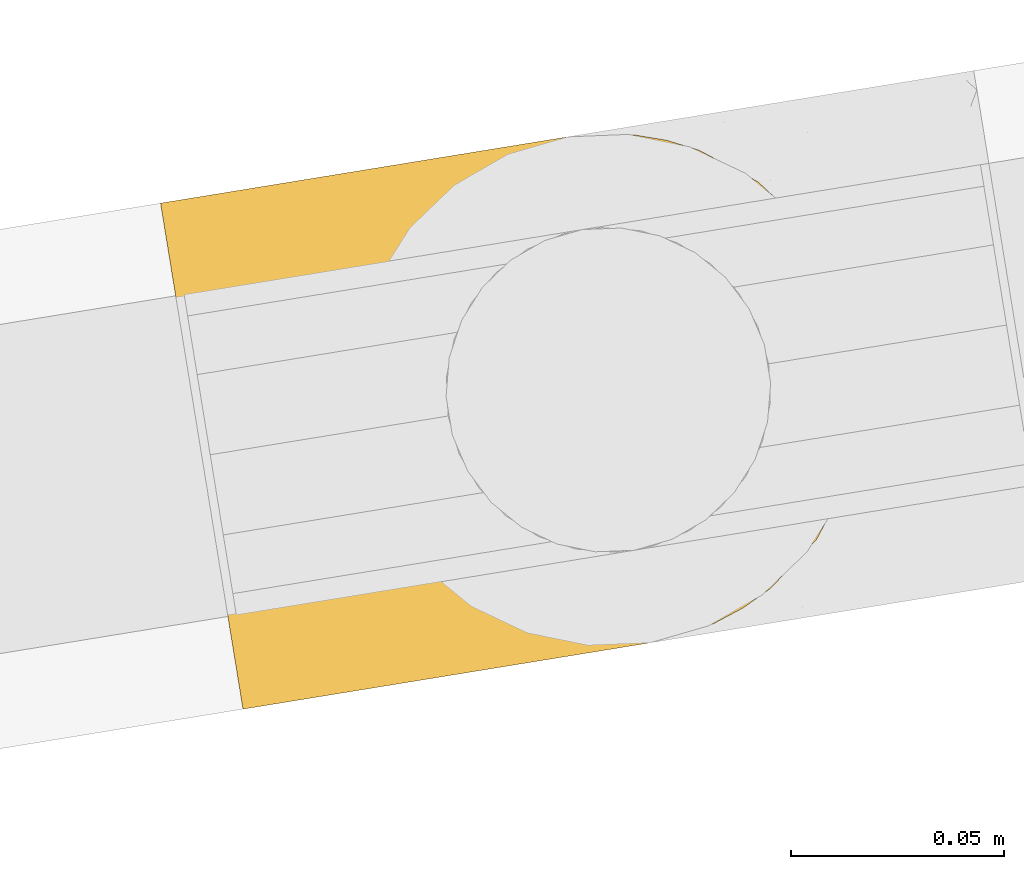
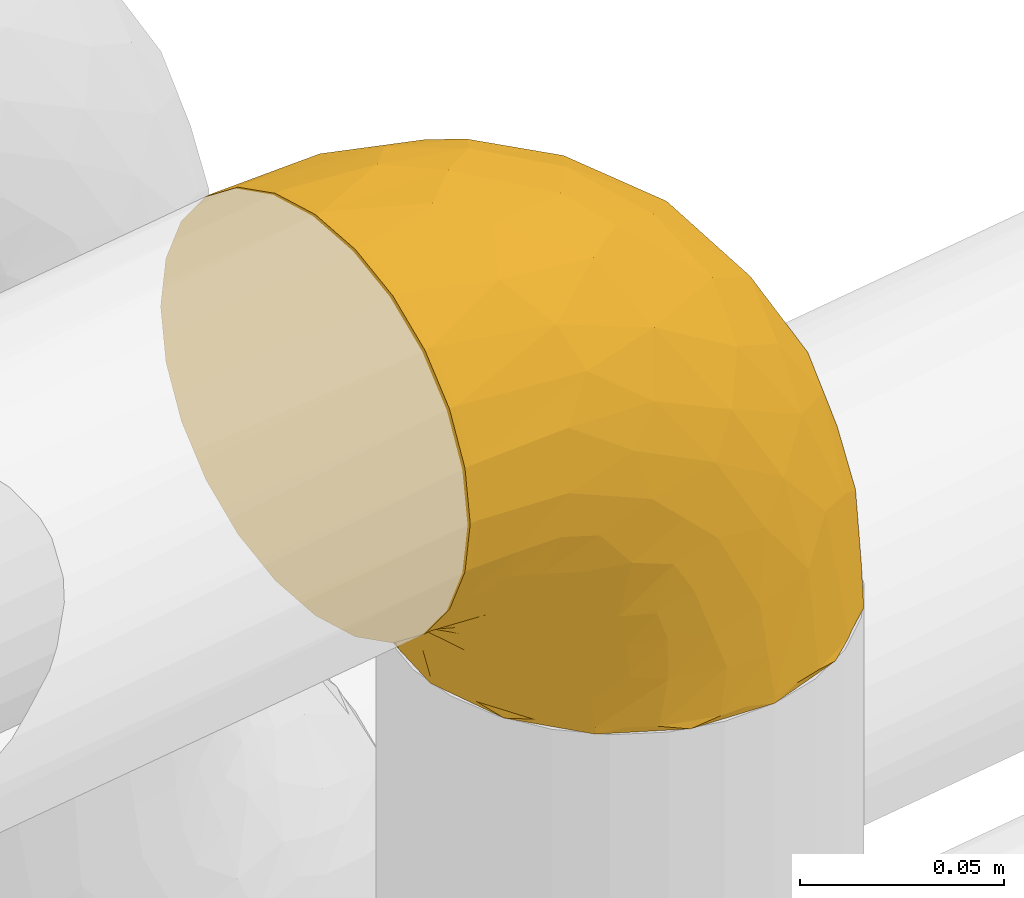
# One storey, part 13 of 56: 1 covering.
"""IFC2X3 building model written with IfcOpenShell, lengths in millimetres."""

from ifc_helpers import new_model, entity, si_unit, converted_unit, derived_unit, direction, frame, origin, origin_with_axes, place, context, subcontext, project, spatial, faceted_brep, material, type_object, element, save


model = new_model("IFC2X3")

# Units and contexts
model_context = context("Model", 3, precision=0.01, world=origin(), true_north=direction((6.12323399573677e-17, 1.0)))
plan_context = context("Plan", 3, precision=1e-05, world=origin_with_axes())
body_context = subcontext(model_context, "Body", "Model", "MODEL_VIEW")
ifc_project = project(units=[converted_unit("PLANEANGLEUNIT", "DEGREE", entity("IfcPositiveLengthMeasure", 0.0174532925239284), si_unit("PLANEANGLEUNIT", "RADIAN"), dimensions=[0, 0, 0, 0, 0, 0, 0]), si_unit("AREAUNIT", "SQUARE_METRE"), si_unit("LENGTHUNIT", "METRE", prefix="MILLI"), si_unit("MASSUNIT", "GRAM", prefix="KILO"), si_unit("POWERUNIT", "WATT"), si_unit("PRESSUREUNIT", "PASCAL", prefix="KILO"), si_unit("FORCEUNIT", "NEWTON", prefix="KILO"), si_unit("ELECTRICVOLTAGEUNIT", "VOLT"), si_unit("ELECTRICCURRENTUNIT", "AMPERE"), si_unit("THERMODYNAMICTEMPERATUREUNIT", "DEGREE_CELSIUS"), si_unit("TIMEUNIT", "SECOND"), si_unit("VOLUMEUNIT", "CUBIC_METRE"), derived_unit("LINEARVELOCITYUNIT", [(si_unit("LENGTHUNIT", "METRE"), 1), (si_unit("TIMEUNIT", "SECOND"), -1)]), derived_unit("VOLUMETRICFLOWRATEUNIT", [(si_unit("VOLUMEUNIT", "CUBIC_METRE"), 1), (si_unit("TIMEUNIT", "SECOND"), -1)]), derived_unit("THERMALTRANSMITTANCEUNIT", [(si_unit("POWERUNIT", "WATT"), 1), (si_unit("THERMODYNAMICTEMPERATUREUNIT", "KELVIN"), -1), (si_unit("AREAUNIT", "SQUARE_METRE"), -1)]), derived_unit("SOUNDPRESSUREUNIT", [(si_unit("PRESSUREUNIT", "PASCAL"), 1)])], contexts=[model_context, plan_context])

# Site, building, storey
site_placement = place(None, frame((-3.09682673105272e-06, 1.93776733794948e-05, 0.0), z_axis=(0.0, 0.0, 1.0), x_axis=(-0.160806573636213, 0.986985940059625, 0.0)))
site = spatial("IfcSite", under=ifc_project, at=site_placement, Name="Default", CompositionType="ELEMENT")
building_placement = place(site_placement, frame((0.0, 0.0, 0.0), z_axis=(0.0, 0.0, 1.0), x_axis=(1.0, -2.77555756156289e-17, 0.0)))
building = spatial("IfcBuilding", under=site, at=building_placement, Name="Bygning (endres i Project Information)", CompositionType="ELEMENT")
storey_placement = place(building_placement, frame((0.0, 0.0, 51360.0000000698), z_axis=(0.0, 0.0, 1.0), x_axis=(1.0, -2.77555756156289e-17, 0.0)))
storey = spatial("IfcBuildingStorey", under=building, at=storey_placement, Name="H01-Nivå D+0,36", CompositionType="ELEMENT", Elevation=51360.0000000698)

# Covering
ifc_material = material(Name="3700.001 Retur")
covering_type = type_object("IfcCoveringType", Name="Pipe Insulation:GLAVA avløpsisol. slange økende 19mm (15,5-25,0)", PredefinedType="INSULATION")
covering_placement = place(storey_placement, frame((1011626.7223707, -395732.461006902, 3503.50073692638), z_axis=(0.0, 0.0, 1.0), x_axis=(1.0, -2.77555756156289e-17, 0.0)))
element("IfcCovering", 1, at=covering_placement, inside=storey, type_object=covering_type, material=ifc_material, Name="Pipe Insulation:GLAVA avløpsisol. slange økende 19mm (15,5-25,0)", ObjectType="Pipe Insulation:GLAVA avløpsisol. slange økende 19mm (15,5-25,0)", PredefinedType="INSULATION", context=body_context, shape_type="Brep", body=[
    faceted_brep([(110.61563630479, 28.9243210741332, 0.0), (104.107034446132, 19.1835100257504, 0.0), (94.3662233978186, 12.6749081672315, 0.0), (84.6254123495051, 6.16630630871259, 0.0), (73.1353422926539, 3.88078927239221, 0.0), (61.6452722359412, 1.59527223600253, 0.0), (50.1552021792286, 3.88078927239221, 0.0), (38.6651321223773, 6.16630630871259, 0.0), (28.9243210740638, 12.6749081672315, 0.0), (19.1835100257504, 19.1835100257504, 0.0), (12.6749081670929, 28.9243210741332, 0.0), (6.16630630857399, 38.6651321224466, 0.0), (3.88078927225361, 50.1552021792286, 0.0), (1.59527223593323, 61.6452722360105, 0.0), (3.88078927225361, 73.1353422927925, 0.0), (6.16630630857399, 84.6254123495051, 0.0), (12.6749081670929, 94.3662233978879, 0.0), (19.1835100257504, 104.107034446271, 0.0), (28.9243210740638, 110.61563630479, 0.0), (38.6651321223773, 117.124238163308, 0.0), (50.1552021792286, 119.409755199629, 0.0), (61.6452722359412, 121.695272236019, 0.0), (73.1353422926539, 119.409755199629, 0.0), (84.6254123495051, 117.124238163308, 0.0), (94.3662233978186, 110.61563630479, 0.0), (104.107034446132, 104.107034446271, 0.0), (110.61563630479, 94.3662233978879, 0.0), (117.124238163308, 84.6254123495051, 0.0), (119.409755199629, 73.1353422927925, 0.0), (121.695272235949, 61.6452722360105, 0.0), (119.409755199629, 50.1552021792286, 0.0), (117.124238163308, 38.6651321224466, 0.0), (38.861730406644, 158.145272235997, 151.504335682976), (46.1031885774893, 158.145272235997, 154.503845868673), (53.2859395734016, 158.145272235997, 155.449472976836), (61.6452722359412, 158.145272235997, 156.550000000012), (69.4163140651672, 158.145272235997, 155.526922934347), (77.1873558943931, 158.145272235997, 154.503845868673), (84.4288140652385, 158.145272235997, 151.504335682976), (91.6702722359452, 158.145272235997, 148.50482549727), (97.8886533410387, 158.145272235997, 143.733293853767), (104.107034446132, 158.145272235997, 138.961762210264), (108.878566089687, 158.145272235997, 132.743381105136), (113.650097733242, 158.145272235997, 126.525000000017), (116.649607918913, 158.145272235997, 119.283541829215), (119.649118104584, 158.145272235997, 112.042083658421), (120.594745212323, 158.145272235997, 104.859332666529), (121.695272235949, 158.145272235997, 96.5000000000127), (120.672195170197, 158.145272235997, 88.7289581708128), (119.649118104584, 158.145272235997, 80.9579163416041), (116.649607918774, 158.145272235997, 73.7164581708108), (113.650097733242, 158.145272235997, 66.4750000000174), (108.878566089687, 158.145272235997, 60.2566188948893), (104.107034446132, 158.145272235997, 54.0382377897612), (97.8886533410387, 158.145272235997, 49.2667061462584), (91.6702722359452, 158.145272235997, 44.4951745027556), (84.4288140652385, 158.145272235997, 41.4956643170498), (77.1873558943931, 158.145272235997, 38.4961541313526), (70.0046048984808, 158.145272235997, 37.5505270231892), (61.6452722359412, 158.145272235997, 36.4500000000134), (53.8742304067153, 158.145272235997, 37.4730770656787), (46.1031885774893, 158.145272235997, 38.4961541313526), (38.861730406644, 158.145272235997, 41.4956643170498), (31.6202722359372, 158.145272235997, 44.4951745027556), (25.4018911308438, 158.145272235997, 49.2667061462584), (19.1835100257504, 158.145272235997, 54.0382377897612), (14.4119783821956, 158.145272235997, 60.2566188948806), (9.64044673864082, 158.145272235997, 66.4750000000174), (6.64093655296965, 158.145272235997, 73.7164581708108), (3.64142636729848, 158.145272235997, 80.9579163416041), (2.69579925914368, 158.145272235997, 88.1406673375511), (1.59527223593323, 158.145272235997, 96.5000000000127), (2.61834930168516, 158.145272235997, 104.271041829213), (3.64142636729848, 158.145272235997, 112.042083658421), (6.64093655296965, 158.145272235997, 119.283541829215), (9.64044673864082, 158.145272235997, 126.525000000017), (14.4119783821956, 158.145272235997, 132.743381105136), (19.1835100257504, 158.145272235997, 138.961762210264), (25.4018911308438, 158.145272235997, 143.733293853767), (31.6202722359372, 158.145272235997, 148.50482549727), (77.1873558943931, 156.145272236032, 154.503845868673), (61.6452722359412, 156.145272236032, 156.550000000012), (70.004604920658, 156.145272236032, 155.449472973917), (91.6702722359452, 156.145272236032, 148.50482549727), (84.4288140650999, 156.145272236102, 151.504335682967), (97.8886533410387, 156.145272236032, 143.733293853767), (104.107034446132, 156.145272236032, 138.961762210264), (113.650097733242, 156.145272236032, 126.525000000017), (108.878566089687, 156.145272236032, 132.743381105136), (119.649118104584, 156.145272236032, 112.042083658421), (116.649607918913, 156.145272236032, 119.283541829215), (120.672195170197, 156.145272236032, 104.271041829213), (121.695272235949, 156.145272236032, 96.5000000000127), (120.594745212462, 156.145272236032, 88.1406673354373), (120.296466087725, 156.145272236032, 85.8750124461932), (119.649118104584, 156.145272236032, 80.9579163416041), (113.650097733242, 156.145272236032, 66.4750000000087), (116.649607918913, 156.145272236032, 73.7164581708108), (108.878566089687, 156.145272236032, 60.2566188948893), (104.107034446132, 156.145272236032, 54.0382377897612), (91.6702722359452, 156.145272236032, 44.4951745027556), (97.8886533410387, 156.145272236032, 49.2667061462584), (77.1873558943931, 156.145272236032, 38.4961541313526), (84.4288140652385, 156.145272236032, 41.4956643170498), (69.4163140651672, 156.145272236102, 37.4730770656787), (61.6452722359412, 156.145272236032, 36.4500000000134), (46.1031885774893, 156.145272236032, 38.4961541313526), (53.2859395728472, 156.145272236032, 37.5505270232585), (31.6202722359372, 156.145272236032, 44.4951745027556), (38.861730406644, 156.145272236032, 41.4956643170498), (25.4018911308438, 156.145272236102, 49.2667061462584), (19.1835100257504, 156.145272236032, 54.0382377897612), (9.64044673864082, 156.145272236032, 66.4750000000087), (14.4119783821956, 156.145272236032, 60.2566188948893), (3.64142636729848, 156.145272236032, 80.9579163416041), (6.64093655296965, 156.145272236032, 73.7164581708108), (2.99407838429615, 156.145272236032, 85.8750124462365), (2.61834930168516, 156.145272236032, 88.7289581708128), (1.59527223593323, 156.145272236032, 96.5000000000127), (3.64142636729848, 156.145272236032, 112.042083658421), (2.69579925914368, 156.145272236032, 104.8593326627), (9.64044673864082, 156.145272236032, 126.525000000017), (6.64093655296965, 156.145272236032, 119.283541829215), (14.4119783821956, 156.145272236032, 132.743381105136), (19.1835100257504, 156.145272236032, 138.961762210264), (31.6202722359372, 156.145272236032, 148.50482549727), (25.4018911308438, 156.145272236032, 143.733293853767), (46.1031885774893, 156.145272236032, 154.503845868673), (38.861730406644, 156.145272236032, 151.504335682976), (53.8742304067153, 156.145272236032, 155.526922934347), (61.6452722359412, 6.86143578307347, 42.0004834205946), (72.4161841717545, 4.85633208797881, 28.4061816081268), (74.9782039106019, 17.4970961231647, 66.8176923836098), (61.6452722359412, 116.144788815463, 151.283836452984), (72.4161841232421, 129.739090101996, 153.288940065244), (83.1765166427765, 92.4811097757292, 138.434381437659), (94.2224176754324, 96.5885905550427, 134.144438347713), (82.7275564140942, 119.160590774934, 148.119588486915), (96.4252457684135, 128.340793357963, 142.732214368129), (117.036665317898, 96.0393535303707, 103.184564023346), (113.961629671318, 114.864782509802, 118.904536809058), (107.511164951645, 88.2689784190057, 116.677739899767), (92.2961559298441, 48.5209071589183, 100.86067048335), (80.2573725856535, 64.2876891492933, 122.592591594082), (77.1652546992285, 34.90343386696, 94.5183470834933), (120.687826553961, 104.9404992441, 94.1873799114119), (119.935582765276, 79.1197072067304, 79.0255659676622), (121.695272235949, 100.599565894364, 78.4521059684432), (106.818747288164, 118.733085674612, 130.738697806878), (98.0183861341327, 72.172721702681, 116.858258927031), (61.6452722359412, 46.8619192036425, 111.283353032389), (61.6452722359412, 22.3010460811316, 79.2750000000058), (61.6452722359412, 78.8702722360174, 135.8442261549), (119.18845308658, 125.036729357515, 109.248734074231), (117.036665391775, 54.9607093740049, 62.1059203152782), (115.12043202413, 70.0051707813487, 88.1401035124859), (121.695272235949, 113.771366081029, 85.1634733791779), (121.695272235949, 126.943166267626, 91.8748407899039), (72.2819566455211, 100.826681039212, 145.293239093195), (106.818747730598, 27.4065752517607, 39.4121875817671), (107.511165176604, 41.4675344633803, 69.8762968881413), (94.2224191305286, 24.0008362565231, 61.5566846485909), (82.7275563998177, 10.0256837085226, 38.9846813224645), (77.1873558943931, 3.64142636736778, 2.0), (84.4288140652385, 6.64093655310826, 2.0), (91.6702722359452, 9.64044673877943, 2.0), (96.425246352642, 15.4130584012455, 29.8044794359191), (97.8886533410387, 14.4119783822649, 2.0), (104.107034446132, 19.1835100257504, 2.0), (61.6452722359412, 1.59527223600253, 2.0), (69.4163140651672, 2.61834930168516, 2.0), (113.961629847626, 39.2407362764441, 43.2804911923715), (113.650097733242, 31.6202722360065, 2.0), (116.649607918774, 38.8617304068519, 2.0), (119.649118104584, 46.103188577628, 2.0), (108.878566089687, 25.4018911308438, 2.0), (121.695272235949, 79.6931662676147, 57.5457063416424), (121.695272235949, 90.1463660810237, 67.9989061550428), (120.68782656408, 63.9578927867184, 53.2047737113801), (119.188453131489, 48.896538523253, 33.1085435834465), (121.695272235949, 66.270431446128, 31.2021059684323), (121.695272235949, 61.6452722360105, 2.0), (121.695272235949, 63.6720570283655, 14.7966155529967), (121.695272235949, 72.9817988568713, 44.3739061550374), (84.8749327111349, 25.8677928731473, 76.0964222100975), (120.672195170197, 53.8742304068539, 2.0), (105.75755060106, 60.5130135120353, 97.6322626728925), (121.695272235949, 143.348657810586, 94.4732153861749), (92.8369498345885, 120.504197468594, 26.3881555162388), (77.905527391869, 124.070288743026, 19.8213005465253), (83.6303098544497, 130.078513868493, 30.495068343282), (119.642205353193, 142.117064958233, 79.6755573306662), (120.072900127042, 128.628832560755, 77.7956794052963), (87.5451559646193, 147.533586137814, 41.3921957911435), (104.200031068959, 139.082463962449, 51.2599985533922), (91.2304823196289, 136.422330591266, 39.3569033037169), (116.122692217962, 130.78536407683, 66.425565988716), (116.752099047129, 118.478414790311, 61.7611370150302), (111.678355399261, 129.916934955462, 57.3979050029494), (120.411899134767, 116.031663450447, 73.6921423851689), (119.181509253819, 104.870233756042, 59.8559552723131), (103.601291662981, 105.417545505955, 11.1054589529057), (104.848123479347, 106.909255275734, 21.0489355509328), (110.652106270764, 98.6689268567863, 18.4951953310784), (120.672195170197, 69.4163140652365, 2.0), (120.296466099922, 72.2702596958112, 2.0), (119.649118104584, 77.1873558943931, 2.0), (116.127021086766, 141.95247640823, 69.7763679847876), (110.514916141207, 143.451789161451, 60.2362581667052), (76.4459559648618, 141.678469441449, 35.2954551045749), (94.7858946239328, 126.59430632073, 35.1684660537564), (104.678316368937, 115.549145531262, 35.4744073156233), (88.469094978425, 117.005756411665, 13.4287309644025), (91.6702722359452, 113.650097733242, 2.0), (84.4288140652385, 116.649607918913, 2.0), (77.1873558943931, 119.649118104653, 2.0), (120.478795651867, 92.7490897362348, 54.7534216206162), (116.647334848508, 91.4693001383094, 29.8078963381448), (120.301450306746, 86.1872714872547, 44.0771599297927), (120.044050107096, 79.6356612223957, 27.0781928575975), (112.175020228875, 100.652594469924, 29.7714545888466), (120.320962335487, 75.6631370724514, 16.2064688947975), (113.650097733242, 91.6702722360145, 2.0), (115.239613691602, 90.2295581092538, 16.1340663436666), (104.107034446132, 104.107034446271, 2.0), (109.988197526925, 120.648409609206, 48.9737177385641), (101.585160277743, 129.564302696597, 43.9447950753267), (61.6452722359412, 124.002984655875, 10.612500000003), (78.2976487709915, 120.547927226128, 11.3511933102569), (113.641213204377, 104.532423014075, 40.6154890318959), (117.104758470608, 95.2125765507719, 39.3574666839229), (61.6452722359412, 121.695272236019, 2.0), (61.6452722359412, 132.61548465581, 25.5297875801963), (61.6452722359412, 126.310697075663, 19.2250000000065), (72.485868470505, 134.199400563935, 29.8232292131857), (61.6452722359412, 138.920272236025, 31.8345751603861), (108.878566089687, 97.8886533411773, 2.0), (97.8886533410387, 108.878566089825, 2.0), (116.649607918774, 84.4288140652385, 2.0), (69.4163140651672, 120.672195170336, 2.0), (19.0905134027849, 139.082463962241, 51.2599985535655), (35.7453885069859, 147.533586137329, 41.3921957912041), (46.844588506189, 141.678469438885, 35.2954551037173), (3.64833911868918, 142.117064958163, 79.6755573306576), (1.59527223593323, 143.348657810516, 94.4732153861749), (1.59527223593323, 79.6931662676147, 57.5457063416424), (2.81174643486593, 92.7490814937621, 54.7534299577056), (2.98909452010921, 86.1872721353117, 44.0771578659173), (45.3850170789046, 124.070288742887, 19.8213005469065), (30.4535946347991, 120.504197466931, 26.3881555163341), (39.6602346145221, 130.078513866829, 30.4950683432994), (12.5170794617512, 143.724416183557, 60.6680970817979), (6.8221522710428, 141.257647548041, 70.3948101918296), (7.1678522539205, 130.785364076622, 66.4255659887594), (2.87864533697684, 116.031663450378, 73.6921423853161), (3.03824146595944, 128.101851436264, 78.4327232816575), (1.59527223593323, 126.943166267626, 91.8748407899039), (21.7053841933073, 129.564302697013, 43.9447950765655), (18.612234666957, 115.54915132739, 35.4744037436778), (13.3023469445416, 120.648409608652, 48.9737177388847), (28.5046498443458, 126.594306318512, 35.1684660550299), (32.0600621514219, 136.422330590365, 39.3569033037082), (50.2206672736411, 130.05259985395, 26.1401484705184), (1.59527223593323, 90.1463660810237, 67.9989061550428), (4.10903440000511, 104.870222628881, 59.8559490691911), (44.9928957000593, 120.547927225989, 11.3511933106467), (1.59527223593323, 63.6720570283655, 14.7966155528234), (3.64142636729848, 77.1873558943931, 2.0), (2.99407837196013, 72.2702596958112, 2.0), (2.61834930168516, 69.4163140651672, 2.0), (1.59527223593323, 61.6452722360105, 2.0), (9.64934103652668, 104.532434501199, 40.6154761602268), (12.638438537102, 98.6689283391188, 18.495198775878), (19.1835100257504, 104.107034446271, 2.0), (8.05093562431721, 90.2295673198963, 16.134063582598), (14.4119783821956, 97.8886533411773, 2.0), (9.64044673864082, 91.6702722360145, 2.0), (3.24649619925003, 79.6356673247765, 27.0781868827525), (6.64321344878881, 91.4693094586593, 29.8078959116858), (18.4424237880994, 106.909254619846, 21.0489258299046), (11.1155292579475, 100.65260209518, 29.7714523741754), (6.53844704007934, 118.478411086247, 61.7611302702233), (1.59527223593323, 66.270431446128, 31.2021059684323), (2.9695822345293, 75.6631375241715, 16.206468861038), (1.59527223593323, 72.9817988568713, 44.3739061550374), (19.6892477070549, 105.417540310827, 11.1054582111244), (34.8214494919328, 117.005756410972, 13.4287309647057), (46.1031885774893, 119.649118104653, 2.0), (38.861730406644, 116.649607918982, 2.0), (31.6202722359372, 113.650097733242, 2.0), (11.6121889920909, 129.916934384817, 57.3979048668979), (1.59527223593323, 100.599565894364, 78.4521059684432), (53.8742304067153, 120.672195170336, 2.0), (6.18578775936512, 95.2125864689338, 39.3574747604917), (6.64093655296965, 84.4288140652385, 2.0), (25.4018911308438, 108.878566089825, 2.0), (1.59527223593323, 113.771366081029, 85.1634733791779), (2.60271791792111, 104.940499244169, 94.1873799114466), (29.0681253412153, 24.0008362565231, 61.556684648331), (25.2721577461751, 41.2870177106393, 85.9725557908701), (15.7793792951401, 41.4675344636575, 69.8762968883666), (40.5629880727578, 10.0256837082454, 38.9846813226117), (31.6202722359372, 9.64044673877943, 2.0), (38.861730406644, 6.64093655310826, 2.0), (46.1031885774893, 3.64142636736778, 2.0), (30.9943890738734, 57.284607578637, 109.624370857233), (43.0331721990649, 35.5526854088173, 93.8575895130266), (46.1252902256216, 63.6269305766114, 123.241842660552), (2.6027179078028, 63.9578927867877, 53.2047737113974), (3.35496170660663, 79.1197072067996, 79.0255659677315), (4.10209138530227, 125.036729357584, 109.248734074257), (50.874360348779, 129.739090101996, 153.288940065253), (40.5629880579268, 119.160590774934, 148.119588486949), (26.8652987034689, 128.340793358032, 142.732214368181), (16.4717971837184, 118.733085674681, 130.738697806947), (29.0681267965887, 96.5885905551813, 134.144438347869), (48.3123394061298, 91.3275819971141, 140.648176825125), (9.32891480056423, 114.86478250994, 118.904536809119), (15.7793795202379, 88.2689784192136, 116.677739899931), (9.64044673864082, 31.6202722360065, 2.0), (16.4717967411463, 27.40657525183, 39.4121875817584), (9.32891462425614, 39.2407362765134, 43.2804911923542), (4.10209134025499, 48.896538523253, 33.1085435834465), (6.25387908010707, 54.9607093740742, 62.1059203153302), (2.61834930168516, 53.8742304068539, 2.0), (3.64142636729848, 46.103188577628, 2.0), (6.2538791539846, 96.0393535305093, 103.184564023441), (8.17011244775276, 70.0051707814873, 88.1401035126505), (50.8743603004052, 4.85633208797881, 28.4061816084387), (19.1835100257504, 19.1835100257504, 2.0), (26.8652981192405, 15.4130584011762, 29.8044794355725), (51.0085891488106, 12.8520324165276, 57.3185899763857), (25.4018911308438, 14.4119783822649, 2.0), (14.4119783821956, 25.4018911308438, 2.0), (40.1140269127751, 19.7108916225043, 65.664163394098), (38.415613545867, 82.0488553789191, 132.277483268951), (17.5329938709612, 60.5130135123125, 97.6322626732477), (6.64093655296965, 38.8617304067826, 2.0), (53.8742304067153, 2.61834930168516, 2.0)], [[[0, 1, 2, 3, 4, 5, 6, 7, 8, 9, 10, 11, 12, 13, 14, 15, 16, 17, 18, 19, 20, 21, 22, 23, 24, 25, 26, 27, 28, 29, 30, 31]], [[32, 33, 34, 35, 36, 37, 38, 39, 40, 41, 42, 43, 44, 45, 46, 47, 48, 49, 50, 51, 52, 53, 54, 55, 56, 57, 58, 59, 60, 61, 62, 63, 64, 65, 66, 67, 68, 69, 70, 71, 72, 73, 74, 75, 76, 77, 78, 79]], [[80, 37, 36, 35, 81, 82]], [[83, 39, 38, 37, 80, 84]], [[40, 39, 83, 85, 86, 41]], [[87, 43, 42, 41, 86, 88]], [[89, 45, 44, 43, 87, 90]], [[46, 45, 89, 91, 92, 47]], [[49, 48, 47, 92, 93, 94, 95]], [[96, 51, 50, 49, 95, 97]], [[52, 51, 96, 98, 99, 53]], [[100, 55, 54, 53, 99, 101]], [[102, 57, 56, 55, 100, 103]], [[58, 57, 102, 104, 105, 59]], [[106, 61, 60, 59, 105, 107]], [[108, 63, 62, 61, 106, 109]], [[64, 63, 108, 110, 111, 65]], [[112, 67, 66, 65, 111, 113]], [[114, 69, 68, 67, 112, 115]], [[70, 69, 114, 116, 117, 118, 71]], [[119, 73, 72, 71, 118, 120]], [[121, 75, 74, 73, 119, 122]], [[76, 75, 121, 123, 124, 77]], [[125, 79, 78, 77, 124, 126]], [[127, 33, 32, 79, 125, 128]], [[34, 33, 127, 129, 81, 35]], [[130, 131, 132]], [[81, 133, 134]], [[135, 136, 137]], [[137, 136, 138]], [[137, 83, 84, 80]], [[139, 140, 141]], [[142, 143, 144]], [[145, 146, 147]], [[148, 86, 138]], [[138, 86, 85, 83]], [[143, 142, 149]], [[150, 151, 144]], [[143, 152, 150]], [[153, 92, 91, 89]], [[154, 146, 155]], [[87, 148, 140]], [[145, 147, 156, 157]], [[80, 134, 137]], [[158, 135, 137]], [[155, 146, 139]], [[148, 87, 88, 86]], [[159, 160, 161]], [[162, 163, 164, 165]], [[166, 165, 167, 168]], [[166, 162, 165]], [[131, 169, 170, 163]], [[159, 171, 160]], [[171, 172, 173, 174]], [[153, 139, 145]], [[159, 168, 175, 172]], [[144, 143, 150]], [[146, 176, 177, 147]], [[178, 179, 180]], [[179, 181, 182, 180]], [[178, 180, 183, 176]], [[178, 146, 154]], [[136, 149, 141]], [[131, 163, 162]], [[166, 159, 161]], [[184, 144, 132]], [[153, 140, 139]], [[179, 171, 174]], [[132, 144, 151]], [[134, 158, 137]], [[161, 160, 142]], [[146, 178, 176]], [[179, 178, 154]], [[179, 154, 171]], [[179, 174, 185, 181]], [[154, 155, 160]], [[172, 171, 159]], [[154, 160, 171]], [[160, 186, 142]], [[153, 157, 187, 92]], [[146, 145, 139]], [[153, 145, 157]], [[140, 89, 90, 87]], [[140, 153, 89]], [[141, 140, 148]], [[136, 141, 148]], [[141, 186, 155]], [[142, 144, 184]], [[186, 141, 149]], [[137, 138, 83]], [[148, 138, 136]], [[159, 166, 168]], [[162, 166, 161]], [[141, 155, 139]], [[160, 155, 186]], [[130, 132, 151]], [[184, 162, 161]], [[162, 184, 132]], [[142, 184, 161]], [[134, 80, 82, 81]], [[158, 134, 133]], [[133, 152, 158]], [[143, 158, 152]], [[158, 143, 135]], [[143, 136, 135]], [[132, 131, 162]], [[169, 131, 130]], [[143, 149, 136]], [[186, 149, 142]], [[188, 189, 190]], [[187, 157, 191]], [[157, 156, 192]], [[95, 187, 191]], [[193, 194, 195]], [[196, 197, 198]], [[199, 200, 197]], [[201, 202, 203]], [[182, 181, 204, 205, 206]], [[207, 208, 96]], [[209, 105, 104, 102]], [[188, 190, 210]], [[188, 210, 211]], [[187, 95, 94, 93, 92]], [[193, 102, 103, 100]], [[212, 213, 214, 215]], [[200, 177, 216]], [[202, 201, 212]], [[217, 218, 219]], [[183, 219, 218]], [[217, 203, 220]], [[221, 222, 223]], [[191, 96, 97, 95]], [[195, 210, 190]], [[224, 201, 203]], [[225, 211, 226]], [[227, 189, 228]], [[202, 188, 211]], [[195, 190, 209]], [[221, 182, 206]], [[223, 203, 217]], [[189, 188, 212]], [[200, 229, 225]], [[194, 100, 101, 99]], [[216, 218, 230]], [[208, 99, 98, 96]], [[199, 197, 196]], [[200, 147, 177]], [[228, 231, 227]], [[202, 212, 188]], [[228, 212, 215]], [[232, 189, 233]], [[209, 234, 235]], [[234, 209, 190]], [[105, 209, 235]], [[193, 209, 102]], [[232, 234, 189]], [[226, 210, 195]], [[211, 225, 229]], [[211, 210, 226]], [[211, 229, 220]], [[195, 194, 226]], [[198, 226, 194]], [[218, 216, 176]], [[216, 177, 176]], [[229, 200, 216]], [[180, 219, 183]], [[217, 220, 230]], [[218, 176, 183]], [[221, 219, 180]], [[223, 217, 219]], [[221, 223, 219]], [[223, 222, 236, 224]], [[224, 203, 223]], [[220, 203, 202]], [[211, 220, 202]], [[217, 230, 218]], [[220, 229, 230]], [[216, 230, 229]], [[201, 224, 237, 213]], [[212, 201, 213]], [[182, 221, 180]], [[221, 206, 238, 222]], [[189, 227, 233]], [[199, 196, 192]], [[191, 192, 207]], [[200, 199, 147]], [[147, 199, 156]], [[196, 207, 192]], [[200, 225, 197]], [[225, 226, 198]], [[157, 192, 191]], [[156, 199, 192]], [[207, 196, 208]], [[191, 207, 96]], [[198, 208, 196]], [[194, 99, 208]], [[225, 198, 197]], [[208, 198, 194]], [[194, 193, 100]], [[209, 193, 195]], [[189, 234, 190]], [[235, 234, 232]], [[228, 215, 239, 231]], [[189, 212, 228]], [[240, 111, 110, 108]], [[241, 108, 109, 106]], [[105, 235, 242]], [[243, 244, 114]], [[245, 246, 247]], [[248, 249, 250]], [[248, 233, 227]], [[251, 252, 112]], [[116, 114, 244, 118, 117]], [[253, 254, 255]], [[244, 243, 256]], [[253, 252, 251]], [[257, 258, 259]], [[243, 114, 115, 112]], [[258, 260, 249]], [[261, 250, 260]], [[262, 242, 235]], [[246, 263, 264]], [[231, 265, 227]], [[240, 108, 241]], [[266, 267, 268, 269, 270]], [[264, 259, 271]], [[272, 273, 274]], [[260, 257, 261]], [[274, 273, 275, 276]], [[277, 247, 278]], [[279, 280, 258]], [[254, 281, 264]], [[266, 282, 283]], [[283, 282, 277]], [[282, 284, 277]], [[272, 285, 273]], [[286, 279, 249]], [[286, 287, 288, 289]], [[259, 281, 290]], [[272, 280, 279]], [[263, 246, 245]], [[264, 291, 254]], [[286, 289, 285]], [[248, 286, 249]], [[260, 250, 249]], [[265, 231, 292, 287]], [[242, 250, 261]], [[262, 248, 250]], [[241, 242, 261]], [[242, 106, 107, 105]], [[262, 235, 232, 233]], [[248, 262, 233]], [[260, 258, 257]], [[279, 258, 249]], [[259, 258, 271]], [[290, 257, 259]], [[240, 261, 257]], [[264, 271, 246]], [[263, 291, 264]], [[280, 278, 293]], [[293, 246, 271]], [[278, 274, 277]], [[277, 284, 247]], [[284, 245, 247]], [[283, 276, 294, 267]], [[274, 278, 272]], [[283, 274, 276]], [[280, 272, 278]], [[272, 279, 285]], [[293, 278, 247]], [[258, 280, 271]], [[246, 293, 247]], [[271, 280, 293]], [[286, 285, 279]], [[285, 289, 295, 273]], [[283, 277, 274]], [[266, 283, 267]], [[265, 287, 286]], [[253, 255, 252]], [[254, 291, 296]], [[255, 254, 296]], [[243, 255, 256]], [[254, 253, 281]], [[256, 255, 296]], [[255, 243, 252]], [[290, 281, 253]], [[259, 264, 281]], [[243, 112, 252]], [[251, 112, 113, 111]], [[111, 240, 251]], [[290, 251, 240]], [[251, 290, 253]], [[290, 240, 257]], [[242, 241, 106]], [[240, 241, 261]], [[242, 262, 250]], [[286, 248, 265]], [[227, 265, 248]], [[297, 256, 296, 291]], [[298, 299, 300]], [[301, 302, 303, 304]], [[305, 306, 307]], [[308, 309, 245]], [[297, 310, 256]], [[311, 127, 312]], [[313, 314, 315]], [[311, 81, 129, 127]], [[316, 307, 152]], [[314, 317, 318]], [[313, 312, 125]], [[312, 127, 128, 125]], [[313, 125, 126, 124]], [[319, 320, 321]], [[314, 124, 123, 121]], [[317, 121, 122, 119]], [[306, 151, 150]], [[309, 291, 263, 245]], [[322, 321, 323]], [[314, 318, 315]], [[322, 323, 308]], [[322, 270, 324, 325]], [[326, 309, 327]], [[119, 310, 317]], [[304, 328, 301]], [[306, 305, 299]], [[320, 329, 330]], [[328, 331, 301]], [[330, 329, 332, 302]], [[320, 319, 333, 329]], [[331, 334, 301]], [[298, 301, 334]], [[307, 306, 150]], [[169, 130, 328]], [[297, 309, 326]], [[327, 309, 323]], [[330, 301, 298]], [[300, 323, 321]], [[310, 118, 244, 256]], [[150, 152, 307]], [[308, 245, 284, 282]], [[335, 307, 316]], [[133, 311, 316]], [[315, 318, 305]], [[309, 297, 291]], [[310, 297, 326]], [[310, 326, 317]], [[310, 119, 120, 118]], [[326, 327, 318]], [[121, 317, 314]], [[326, 318, 317]], [[318, 336, 305]], [[322, 282, 266, 270]], [[309, 308, 323]], [[322, 308, 282]], [[321, 325, 337, 319]], [[321, 322, 325]], [[300, 321, 320]], [[298, 300, 320]], [[300, 336, 327]], [[305, 307, 335]], [[336, 300, 299]], [[301, 330, 302]], [[320, 330, 298]], [[314, 313, 124]], [[312, 313, 315]], [[300, 327, 323]], [[318, 327, 336]], [[133, 316, 152]], [[335, 312, 315]], [[312, 335, 316]], [[305, 335, 315]], [[328, 304, 338, 169]], [[331, 328, 130]], [[130, 151, 331]], [[306, 331, 151]], [[331, 306, 334]], [[306, 298, 334]], [[316, 311, 312]], [[81, 311, 133]], [[306, 299, 298]], [[336, 299, 305]], [[170, 169, 5]], [[185, 174, 30]], [[185, 29, 181]], [[3, 2, 165]], [[3, 165, 164, 163]], [[3, 163, 4]], [[1, 167, 2]], [[5, 4, 170]], [[167, 1, 168]], [[4, 163, 170]], [[29, 185, 30]], [[31, 174, 173, 172]], [[175, 0, 172]], [[175, 1, 0]], [[31, 172, 0]], [[1, 175, 168]], [[167, 165, 2]], [[31, 30, 174]], [[204, 181, 29]], [[239, 215, 22]], [[239, 21, 231]], [[27, 26, 222]], [[27, 222, 238, 206]], [[27, 206, 28]], [[25, 236, 26]], [[29, 28, 204]], [[236, 25, 224]], [[28, 206, 205, 204]], [[21, 239, 22]], [[23, 215, 214, 213]], [[237, 24, 213]], [[237, 25, 24]], [[23, 213, 24]], [[25, 237, 224]], [[236, 222, 26]], [[23, 22, 215]], [[292, 231, 21]], [[14, 269, 268, 267]], [[269, 13, 270]], [[19, 18, 289]], [[19, 289, 288, 287]], [[19, 287, 20]], [[17, 295, 18]], [[21, 20, 292]], [[295, 17, 273]], [[20, 287, 292]], [[13, 269, 14]], [[15, 267, 294, 276]], [[275, 16, 276]], [[275, 17, 16]], [[15, 276, 16]], [[17, 275, 273]], [[295, 289, 18]], [[15, 14, 267]], [[324, 270, 13]], [[338, 304, 6]], [[338, 5, 169]], [[11, 10, 319]], [[11, 319, 337, 325]], [[11, 325, 12]], [[9, 333, 10]], [[13, 12, 324]], [[333, 9, 329]], [[12, 325, 324]], [[5, 338, 6]], [[7, 304, 303, 302]], [[332, 8, 302]], [[332, 9, 8]], [[7, 302, 8]], [[9, 332, 329]], [[333, 319, 10]], [[7, 6, 304]]]),
])

save(model, "model.ifc")
